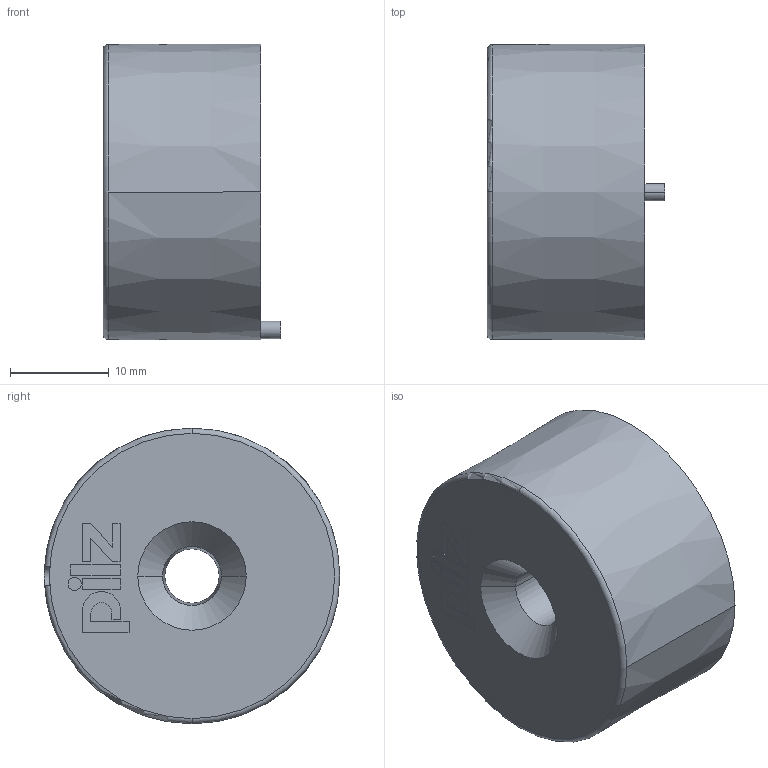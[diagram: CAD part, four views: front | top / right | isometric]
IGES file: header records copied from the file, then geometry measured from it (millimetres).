
Global section: file name: No Iges File Name specified; native system: Autodesk Inventor 2010; preprocessor: AutoDesk Inventor Iges Exporter R2010; author: pschmucki; date: 20110919.160345; units: millimetre
Bounding box: 18 x 30 x 30 mm (x, y, z)
Volume: 10610.2 mm3; surface area: 3181.5 mm2
Topology: 1 solids, 1 shells, 69 faces, 173 edges, 115 vertices
Faces by surface type: plane 42, revolution 14, cylinder 9, torus 2, cone 2
